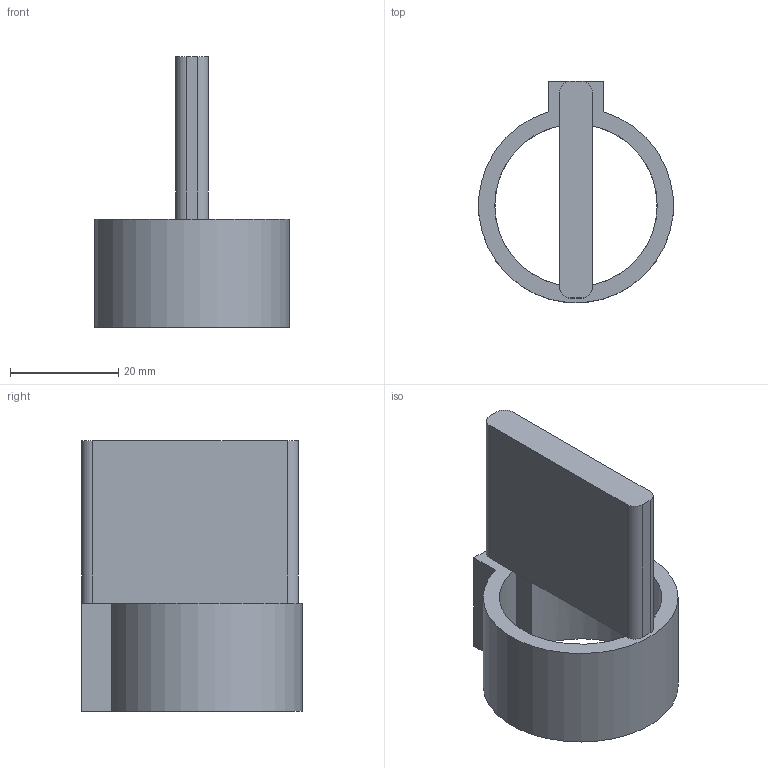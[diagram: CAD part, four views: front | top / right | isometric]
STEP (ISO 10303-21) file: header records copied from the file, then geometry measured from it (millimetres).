
FILE_DESCRIPTION(/* description */ (''),/* implementation_level */ '2;1');
FILE_NAME(/* name */ 'cooker_knob_2 v2.step',/* time_stamp */ '2026-04-10T14:27:03+02:00',/* author */ (''),/* organization */ (''),/* preprocessor_version */ 'ST-DEVELOPER v20.1',/* originating_system */ 'Autodesk Translation Framework v14.24.0.0',/* authorisation */ '');
FILE_SCHEMA (('AUTOMOTIVE_DESIGN { 1 0 10303 214 3 1 1 }'));
Length unit declared in the file: millimetre
Products named in the file (1): (Niezapisany)
Bounding box: 35.9 x 40.8 x 50 mm (x, y, z)
Volume: 13944.6 mm3; surface area: 8305.6 mm2
Topology: 1 solids, 1 shells, 19 faces, 56 edges, 36 vertices
Faces by surface type: plane 13, cylinder 6
Entity records: 675 total; most frequent: ORIENTED_EDGE 112, DIRECTION 112, CARTESIAN_POINT 112, EDGE_CURVE 56, LINE 40, VECTOR 40, VERTEX_POINT 36, AXIS2_PLACEMENT_3D 36
